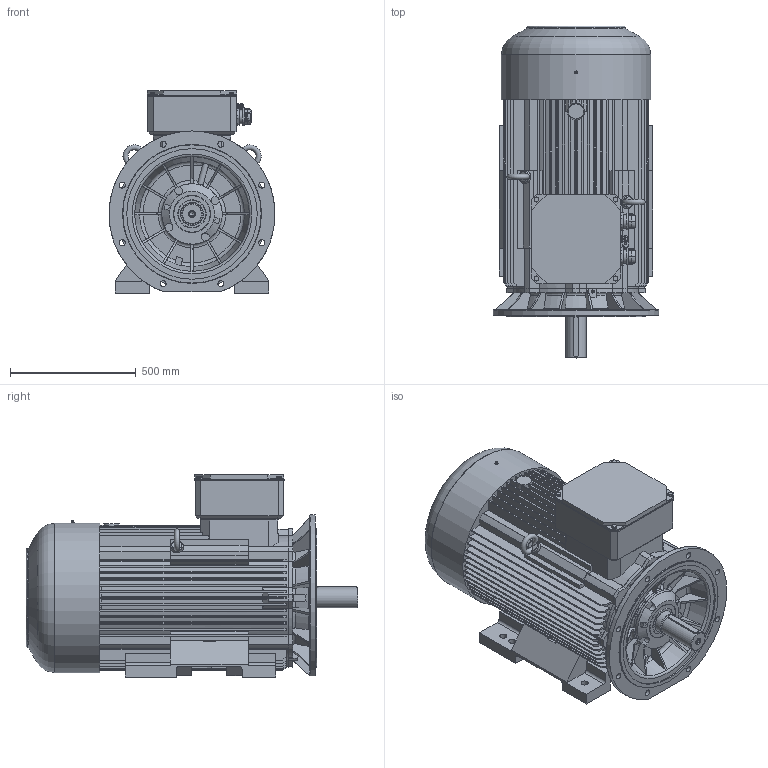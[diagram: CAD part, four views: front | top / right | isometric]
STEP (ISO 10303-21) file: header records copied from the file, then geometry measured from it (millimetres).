
FILE_DESCRIPTION(/* description */ ('Unknown','CAx-IF Rec.Pracs.---Representation and Presentation of Product Manufacturing Information (PMI)---4.0---2014-10-13','CAx-IF Rec.Pracs.---3D Tessellated Geometry---0.4---2014-09-14','2;1'),/* implementation_level */ '2;1');
FILE_NAME(/* name */ '4SIEL315 M4B',/* time_stamp */ '2023-03-22T13:18:55+01:00',/* author */ ('Unknown'),/* organization */ ('Unknown'),/* preprocessor_version */ 'ST-DEVELOPER v16.7',/* originating_system */ 'DEX',/* authorisation */ $);
FILE_SCHEMA (('AP242_MANAGED_MODEL_BASED_3D_ENGINEERING_MIM_LF { 1 0 10303 442 20130219 1 4 }'));
Products named in the file (1): 4SIEL315 M4B
Bounding box: 660 x 1320 x 804.5 mm (x, y, z)
Volume: 289572573.1 mm3; surface area: 7458348.9 mm2
Topology: 6 solids, 21 shells, 1936 faces, 5519 edges, 3622 vertices
Faces by surface type: plane 1006, cylinder 575, torus 158, cone 125, sphere 56, bspline 16
Full cylindrical faces by diameter (mm): 1.6 x2, 5 x4, 6.595 x1, 8.698 x1, 9 x1, 9.306 x1, 10.106 x4, 11 x1, 13 x1, 13.835 x1, 16.63 x4, 17 x1, 17.294 x1, 18 x1, 19.525 x1, 20 x2, 21 x1, 21.546 x2, 24 x12, 27 x1, 28 x6, 38.657 x2, 41.028 x1, 42.657 x2, 44 x2, 47 x2, 50 x2, 54 x2, 75 x2, 79.999 x1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
Entity records: 78638 total; most frequent: CARTESIAN_POINT 17725, ORIENTED_EDGE 10296, DIRECTION 9876, EDGE_CURVE 5148, AXIS2_PLACEMENT_3D 3606, VERTEX_POINT 3451, LINE 2664, VECTOR 2664
